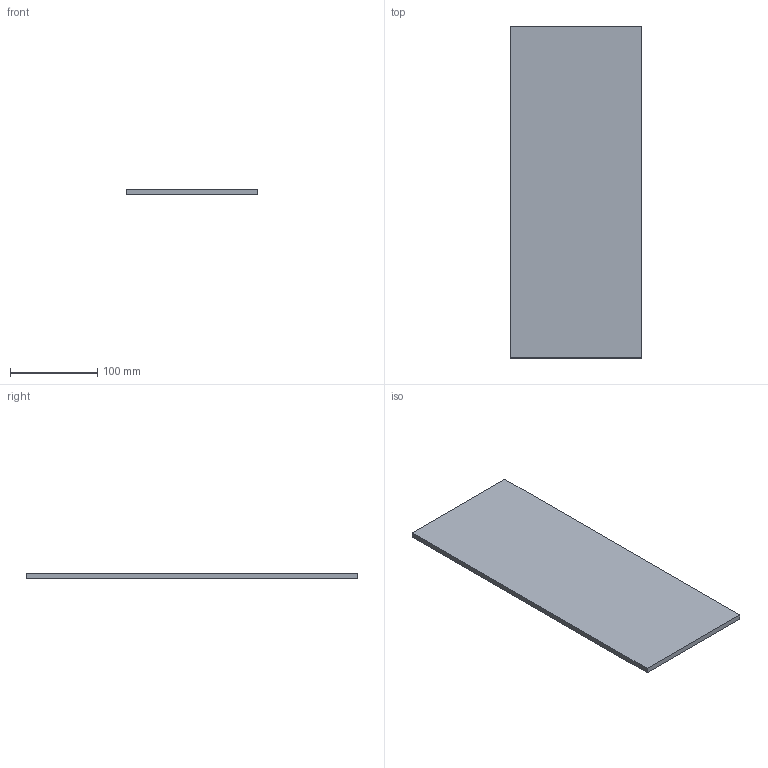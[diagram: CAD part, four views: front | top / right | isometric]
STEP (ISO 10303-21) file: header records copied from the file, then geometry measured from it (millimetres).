
FILE_DESCRIPTION(('Open CASCADE Model'),'2;1');
FILE_NAME('Open CASCADE Shape Model','2026-10-16T18:03:45',('Author'),( 'Open CASCADE'),'Open CASCADE STEP processor 7.8','Open CASCADE 7.8' ,'Unknown');
FILE_SCHEMA(('AUTOMOTIVE_DESIGN { 1 0 10303 214 1 1 1 1 }'));
Length unit declared in the file: millimetre
Products named in the file (1): Open CASCADE STEP translator 7.8 29
Bounding box: 150 x 380 x 6 mm (x, y, z)
Volume: 342000 mm3; surface area: 120360 mm2
Topology: 1 solids, 1 shells, 6 faces, 12 edges, 8 vertices
Faces by surface type: plane 6
Entity records: 322 total; most frequent: CARTESIAN_POINT 51, DIRECTION 50, LINE 36, VECTOR 36, ORIENTED_EDGE 24, PCURVE 24, DEFINITIONAL_REPRESENTATION 24, EDGE_CURVE 12
